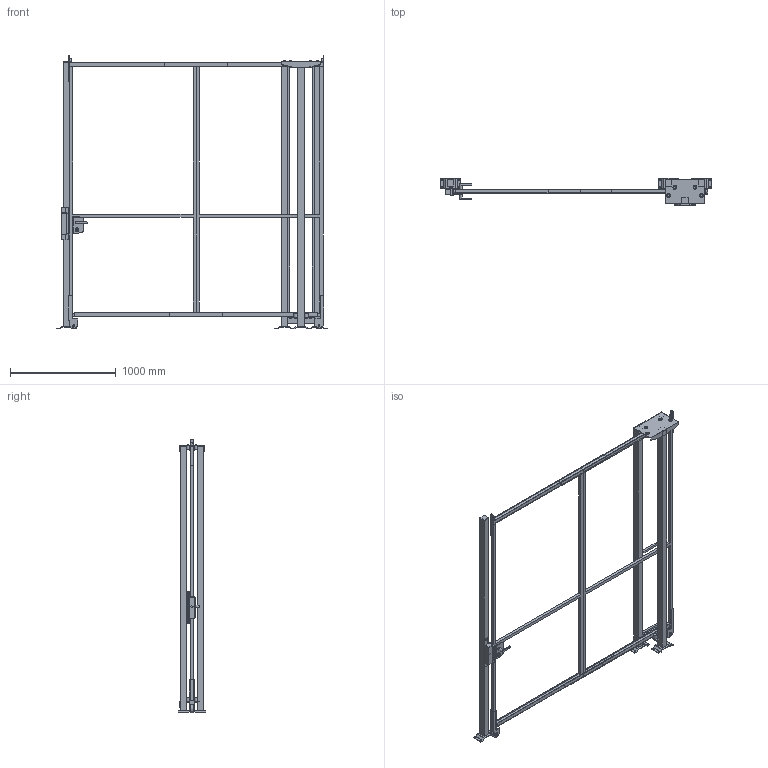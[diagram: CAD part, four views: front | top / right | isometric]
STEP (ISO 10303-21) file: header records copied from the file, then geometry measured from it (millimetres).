
FILE_DESCRIPTION(/* description */ (''),/* implementation_level */ '2;1');
FILE_NAME(/* name */ 'C:\SafeGuarding\ELABORATI\KLADKOUGAMMA_2025-03-21-11-52-25.stp',/* time_stamp */ '2025-03-21T11:52:28+01:00',/* author */ ('admin'),/* organization */ (''),/* preprocessor_version */ 'ST-DEVELOPER v18.1',/* originating_system */ 'AutoCAD Mechanical',/* authorisation */ '');
FILE_SCHEMA (('AUTOMOTIVE_DESIGN { 1 0 10303 214 3 1 1 }'));
Length unit declared in the file: millimetre
Products named in the file (4): Product; VFPA.REPE30.12002400; VFPA.REPE2002502400; P_VFMA.V260SDU.2520
Assembly tree (7 placements, depth 2):
  Product
    VFPA.REPE30.12002400  x2
    P_VFMA.V260SDU.2520  x4
    VFPA.REPE2002502400
Bounding box: 2561.91 x 264 x 2590.02 mm (x, y, z)
Volume: 57803157.4 mm3; surface area: 7301888.9 mm2
Topology: 55 solids, 55 shells, 554 faces, 1677 edges, 1610 vertices
Faces by surface type: plane 476, cylinder 74, bspline 4
Full cylindrical faces by diameter (mm): 9 x4, 11 x16, 13 x4, 18 x1, 25 x2, 25.398 x2, 30 x6, 36 x8, 80 x2
Entity records: 15935 total; most frequent: CARTESIAN_POINT 4154, DIRECTION 2351, ORIENTED_EDGE 2134, EDGE_CURVE 1067, LINE 1037, VECTOR 1037, VERTEX_POINT 718, AXIS2_PLACEMENT_3D 657
